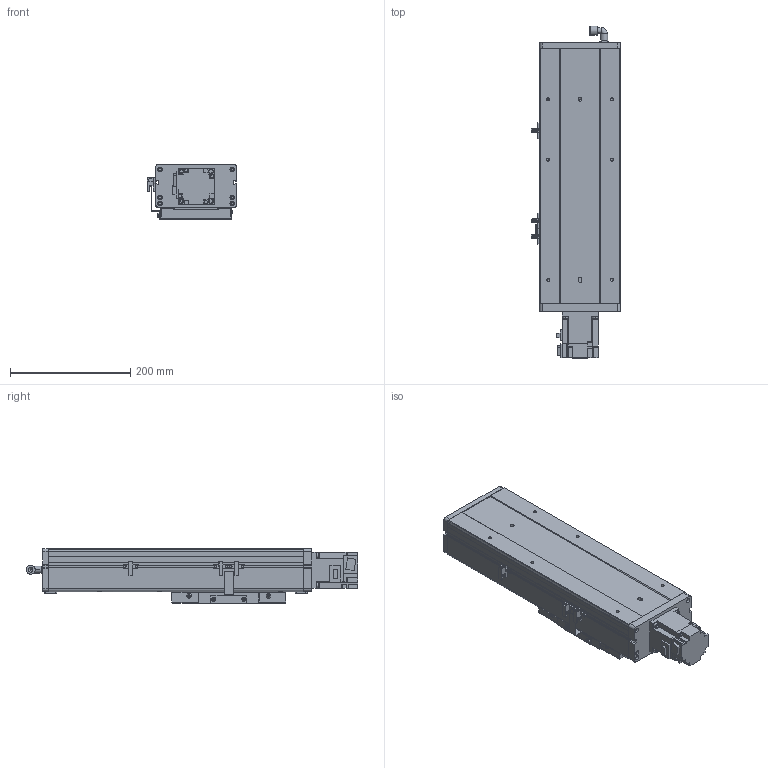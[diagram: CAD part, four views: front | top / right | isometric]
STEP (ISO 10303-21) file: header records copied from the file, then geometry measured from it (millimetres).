
FILE_DESCRIPTION (( 'STEP AP203' ), '1' );
FILE_NAME ('3.STEP', '2020-11-02T09:16:53', ( '' ), ( '' ), 'SwSTEP 2.0', 'SolidWorks 2016', '' );
FILE_SCHEMA (( 'CONFIG_CONTROL_DESIGN' ));
Length unit declared in the file: millimetre
Products named in the file (9): BCH14-BC-02; BCH14-BC-03; 3; BCH14-BC-M20; BCH14-BC-10; BCH14-BC-01; BCH14-BC-04; BCH14-BC-HZ; BCH14-BC-BL-BR-菁釱
Assembly tree (11 placements, depth 2):
  3
    BCH14-BC-BL-BR-菁釱
    BCH14-BC-01
    BCH14-BC-02
    BCH14-BC-03  x2
    BCH14-BC-04  x3
    BCH14-BC-HZ
    BCH14-BC-M20
    BCH14-BC-10
Bounding box: 148.7 x 551.53 x 91 mm (x, y, z)
Volume: 2584361.5 mm3; surface area: 532382 mm2
Topology: 19 solids, 19 shells, 1241 faces, 3213 edges, 2040 vertices
Faces by surface type: plane 790, cylinder 333, cone 94, bspline 10, sphere 8, torus 6
Entity records: 30957 total; most frequent: CARTESIAN_POINT 5824, DIRECTION 5036, ORIENTED_EDGE 4930, EDGE_CURVE 2465, LINE 1688, VECTOR 1688, AXIS2_PLACEMENT_3D 1674, VERTEX_POINT 1588
